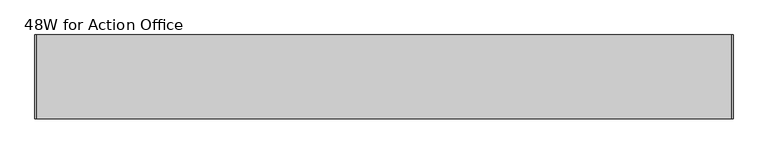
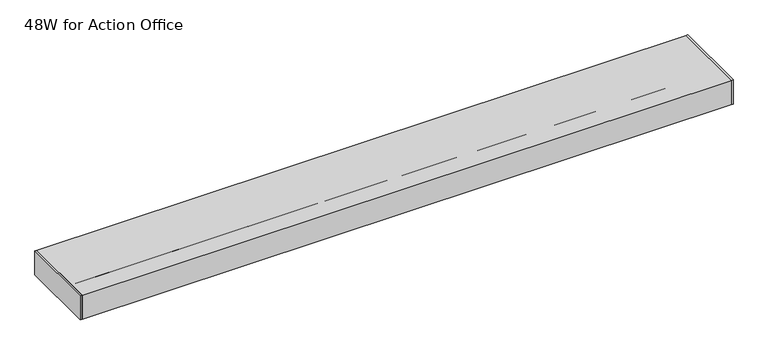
"""IFC4 building model written with IfcOpenShell, lengths in millimetres: light fixture geometry, HermanMiller_SupplementalProducts_G6170_EUnderShelfLEDTaskLight : 48W for Action Office."""

from ifc_helpers import new_model, si_unit, point, frame, frame_2d, origin, place, context, project, spatial, polyline, circle_curve, trimmed, segment, composite_curve, outline, extrude, source, transform, mapped, element, save


def light_fixture_48w_for_action_office_09e55f13(model_context):
    return source(origin(), model_context, "Body", "SweptSolid", [
        extrude(outline(composite_curve([segment(trimmed(circle_curve(frame_2d((-4.699, 1211.2625)), 9.525), [point((-14.224, 1211.2625))], [point((4.826, 1211.2625))], False, "CARTESIAN"), True, "CONTINUOUS"), segment(trimmed(circle_curve(frame_2d((-4.699, 1211.2625)), 9.525), [point((4.826, 1211.2625))], [point((-14.224, 1211.2625))], False, "CARTESIAN"), True, "CONTINUOUS")], self_intersect=False)), frame((542.925, 0.0, 0.0), z_axis=(1.0, 0.0, 0.0), x_axis=(0.0, 1.0, 0.0)), (0.0, 0.0, 1.0), 12.7),
        extrude(outline(composite_curve([segment(trimmed(circle_curve(frame_2d((-4.699, 1211.2625)), 9.525), [point((-14.224, 1211.2625))], [point((4.826, 1211.2625))], False, "CARTESIAN"), True, "CONTINUOUS"), segment(trimmed(circle_curve(frame_2d((-4.699, 1211.2625)), 9.525), [point((4.826, 1211.2625))], [point((-14.224, 1211.2625))], False, "CARTESIAN"), True, "CONTINUOUS")], self_intersect=False)), frame((-555.625, 0.0, 0.0), z_axis=(1.0, 0.0, 0.0), x_axis=(0.0, 1.0, 0.0)), (0.0, 0.0, 1.0), 12.7),
        extrude(outline(composite_curve([segment(trimmed(circle_curve(frame_2d((-4.699, 1211.2625)), 9.525), [point((-14.224, 1211.2625))], [point((4.826, 1211.2625))], False, "CARTESIAN"), True, "CONTINUOUS"), segment(trimmed(circle_curve(frame_2d((-4.699, 1211.2625)), 9.525), [point((4.826, 1211.2625))], [point((-14.224, 1211.2625))], False, "CARTESIAN"), True, "CONTINUOUS")], self_intersect=False)), frame((-542.925, 0.0, 0.0), z_axis=(1.0, 0.0, 0.0), x_axis=(0.0, 1.0, 0.0)), (0.0, 0.0, 1.0), 1085.85),
        extrude(outline(polyline([(565.15, 68.326), (565.15, -68.326), (-565.15, -68.326), (-565.15, 68.326), (565.15, 68.326)])), frame((0.0, 0.0, 1181.1), z_axis=(0.0, 0.0, 1.0), x_axis=(1.0, 0.0, 0.0)), (0.0, 0.0, 1.0), 44.45),
        extrude(outline(polyline([(565.15, -68.326), (565.15, 68.326), (568.325, 68.326), (568.325, -68.326), (565.15, -68.326)])), frame((0.0, 0.0, 1181.1), z_axis=(0.0, 0.0, 1.0), x_axis=(1.0, 0.0, 0.0)), (0.0, 0.0, 1.0), 44.45),
        extrude(outline(polyline([(-565.15, 68.326), (-565.15, -68.326), (-568.325, -68.326), (-568.325, 68.326), (-565.15, 68.326)])), frame((0.0, 0.0, 1181.1), z_axis=(0.0, 0.0, 1.0), x_axis=(1.0, 0.0, 0.0)), (0.0, 0.0, 1.0), 44.45),
    ])


if __name__ == "__main__":
    model = new_model("IFC4")
    model_context = context("Model", 3, world=origin())
    ifc_project = project(units=[si_unit("LENGTHUNIT", "METRE", prefix="MILLI")], contexts=[model_context])
    site = spatial("IfcSite", under=ifc_project)
    building = spatial("IfcBuilding", under=site)
    placement = place(None, origin())
    light_fixture_48w_for_action_office_shape = light_fixture_48w_for_action_office_09e55f13(model_context)
    element("IfcLightFixture", 1, ObjectType="HermanMiller_SupplementalProducts_G6170_EUnderShelfLEDTaskLight : 48W for Action Office", at=placement, inside=building, context=model_context, shape_type="MappedRepresentation", body=[
        mapped(light_fixture_48w_for_action_office_shape, transform((0.0, 0.0, 0.0), x_axis=(1.0, 0.0, 0.0), y_axis=(0.0, 1.0, 0.0), z_axis=(0.0, 0.0, 1.0))),
    ])
    save(model, "model.ifc")
